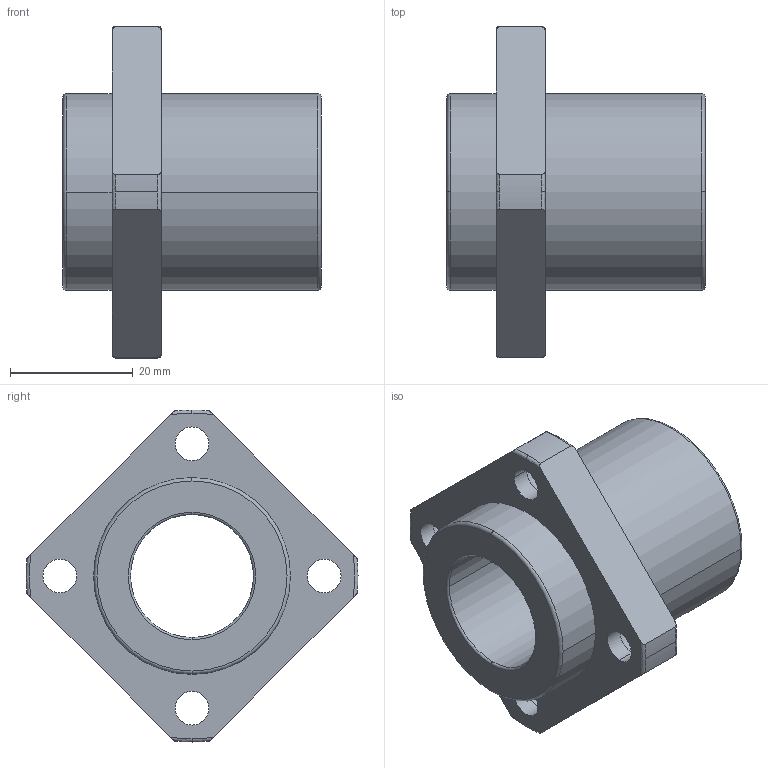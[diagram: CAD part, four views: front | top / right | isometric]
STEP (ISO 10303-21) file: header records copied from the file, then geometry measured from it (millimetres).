
FILE_DESCRIPTION(('FreeCAD Model'),'2;1');
FILE_NAME('Open CASCADE Shape Model','2021-05-03T14:09:58',('Author'),( ''),'Open CASCADE STEP processor 7.5','FreeCAD','Unknown');
FILE_SCHEMA(('AUTOMOTIVE_DESIGN { 1 0 10303 214 1 1 1 1 }'));
Length unit declared in the file: millimetre
Products named in the file (1): linear_lmkp20uu
Bounding box: 42 x 54 x 54 mm (x, y, z)
Volume: 26428 mm3; surface area: 10674.3 mm2
Topology: 1 solids, 1 shells, 60 faces, 160 edges, 108 vertices
Faces by surface type: cylinder 28, torus 20, plane 12
Entity records: 6032 total; most frequent: CARTESIAN_POINT 2829, DIRECTION 620, ORIENTED_EDGE 320, PCURVE 320, DEFINITIONAL_REPRESENTATION 320, LINE 268, VECTOR 268, AXIS2_PLACEMENT_3D 165
